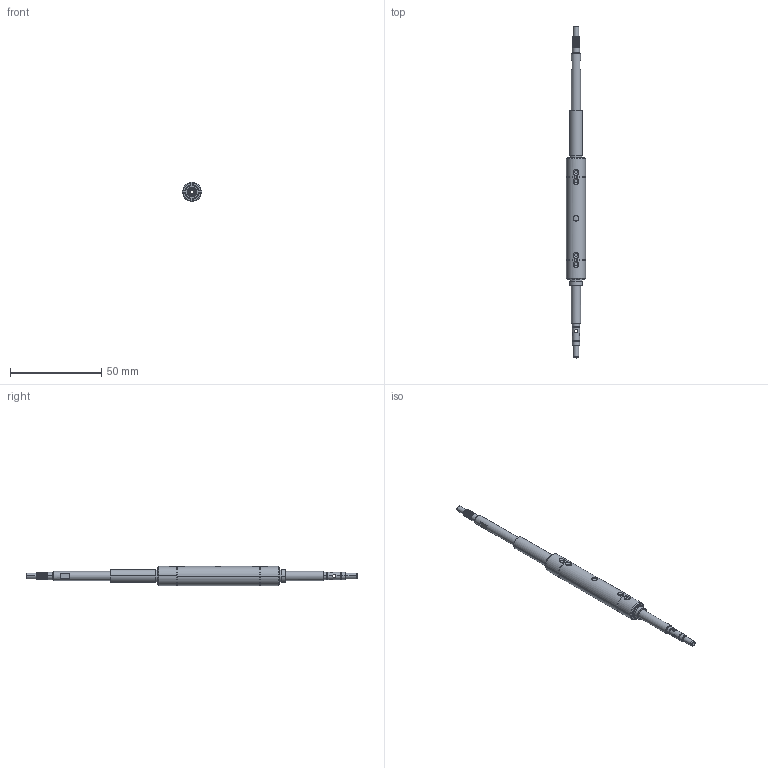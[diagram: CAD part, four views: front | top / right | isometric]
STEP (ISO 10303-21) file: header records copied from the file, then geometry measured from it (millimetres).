
FILE_DESCRIPTION(/* description */ (''),/* implementation_level */ '2;1');
FILE_NAME(/* name */ 'CR03-01 5mm4槽花键组件.stp',/* time_stamp */ '2025-02-28T15:10:32+08:00',/* author */ (''),/* organization */ (''),/* preprocessor_version */ 'ST-DEVELOPER v16.7',/* originating_system */ 'SIEMENS PLM Software NX 12.0',/* authorisation */ '');
FILE_SCHEMA (('AUTOMOTIVE_DESIGN { 1 0 10303 214 3 1 1 1 }'));
Length unit declared in the file: millimetre
Products named in the file (1): 5mm4槽花键组件_无内部细节_
_stp
Bounding box: 10.5 x 182 x 10.5 mm (x, y, z)
Volume: 7718.1 mm3; surface area: 6345.4 mm2
Topology: 1 solids, 3 shells, 151 faces, 352 edges, 231 vertices
Faces by surface type: cylinder 77, plane 34, cone 28, bspline 12
Full cylindrical faces by diameter (mm): 4.99 x2, 9 x2
Entity records: 8282 total; most frequent: CARTESIAN_POINT 4919, ORIENTED_EDGE 692, DIRECTION 653, EDGE_CURVE 346, AXIS2_PLACEMENT_3D 276, VERTEX_POINT 229, EDGE_LOOP 193, ADVANCED_FACE 151
